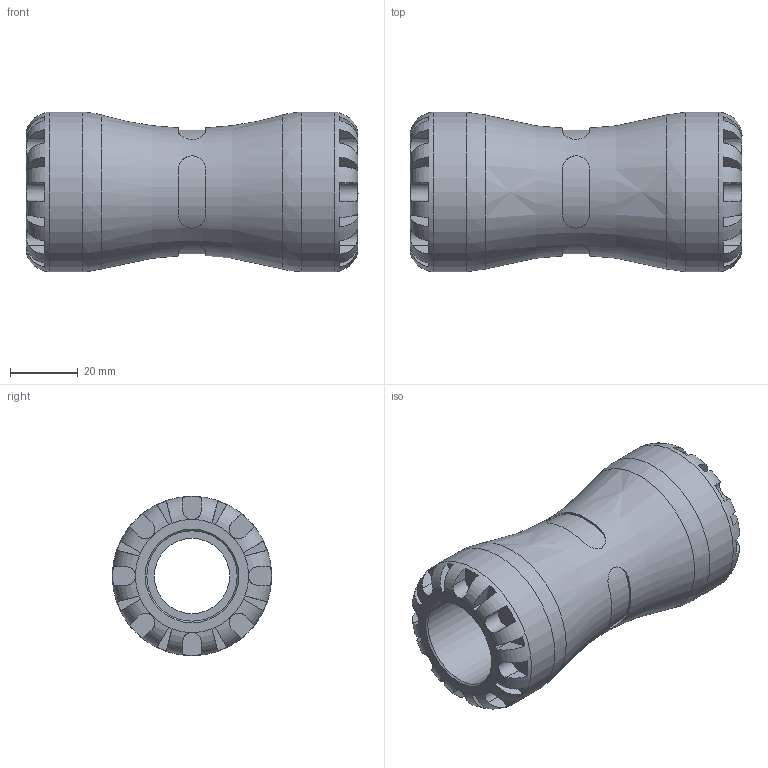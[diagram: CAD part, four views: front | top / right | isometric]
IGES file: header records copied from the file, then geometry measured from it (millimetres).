
Global section: file name: 1001A6007.ipt; native system: Autodesk Inventor 2019; preprocessor: unknown; author: KIM; date: 20210902.120212; units: inch
Bounding box: 97.79 x 46.99 x 46.99 mm (x, y, z)
Volume: 84237.7 mm3; surface area: 25171.7 mm2
Topology: 1 solids, 1 shells, 164 faces, 427 edges, 270 vertices
Faces by surface type: plane 108, revolution 34, cylinder 22
Full cylindrical faces by diameter (mm): 46.99 x2
